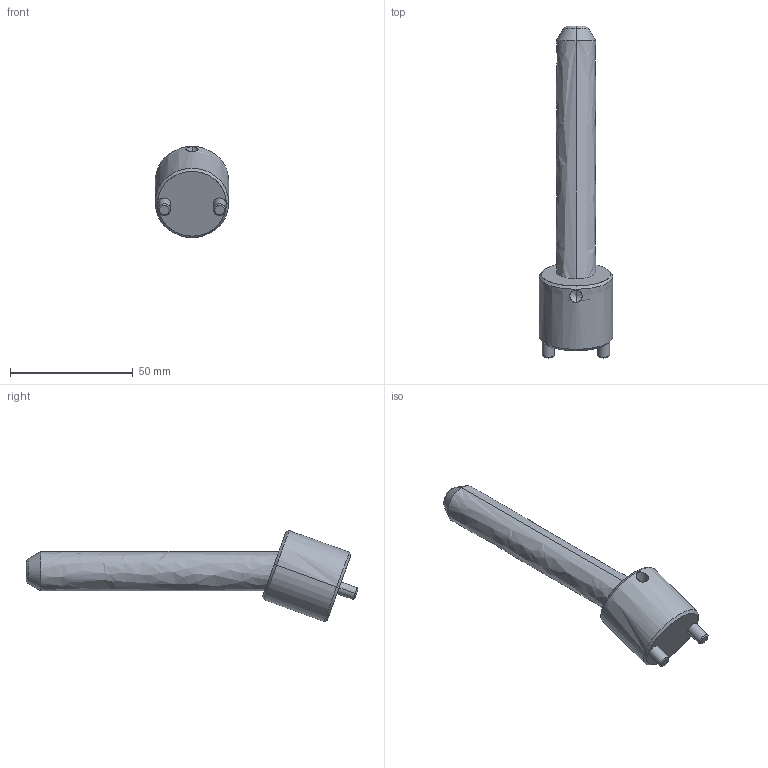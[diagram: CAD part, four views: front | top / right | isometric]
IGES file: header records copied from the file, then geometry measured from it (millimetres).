
Start section: START RECORD GO HERE.
Global section: file name: CI2016100.igs; native system: DASSAULT SYSTEMES CATIA V5 R20 - www.3ds.com; preprocessor: CATIA Version 5 Release 20 ; author: r.borello; organization: CFTORINO; date: 20190624.084028; units: millimetre
Bounding box: 30 x 135.07 x 37.08 mm (x, y, z)
Surface area: 11949 mm2 (no closed solid volume)
Topology: 0 solids, 0 shells, 39 faces, 162 edges, 160 vertices
Faces by surface type: revolution 32, plane 7
